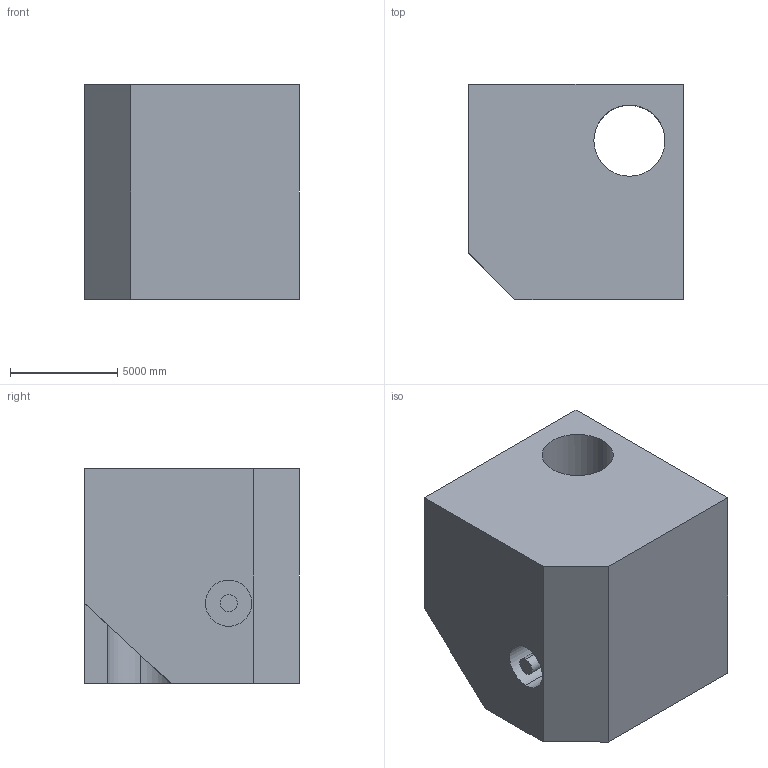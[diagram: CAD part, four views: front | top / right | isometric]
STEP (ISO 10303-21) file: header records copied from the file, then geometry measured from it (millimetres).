
FILE_DESCRIPTION (( 'STEP AP203' ), '1' );
FILE_NAME ('311.STEP', '2022-07-28T14:17:50', ( 'user' ), ( '' ), 'SwSTEP 2.0', 'SolidWorks 2021', '' );
FILE_SCHEMA (( 'CONFIG_CONTROL_DESIGN' ));
Length unit declared in the file: centimetre
Products named in the file (1): 311
Bounding box: 10000 x 10000 x 10000 mm (x, y, z)
Volume: 832781142241.5 mm3; surface area: 669701390.8 mm2
Topology: 1 solids, 1 shells, 17 faces, 42 edges, 28 vertices
Faces by surface type: plane 11, cylinder 6
Entity records: 589 total; most frequent: CARTESIAN_POINT 94, DIRECTION 88, ORIENTED_EDGE 84, EDGE_CURVE 42, AXIS2_PLACEMENT_3D 30, VERTEX_POINT 28, LINE 28, VECTOR 28
